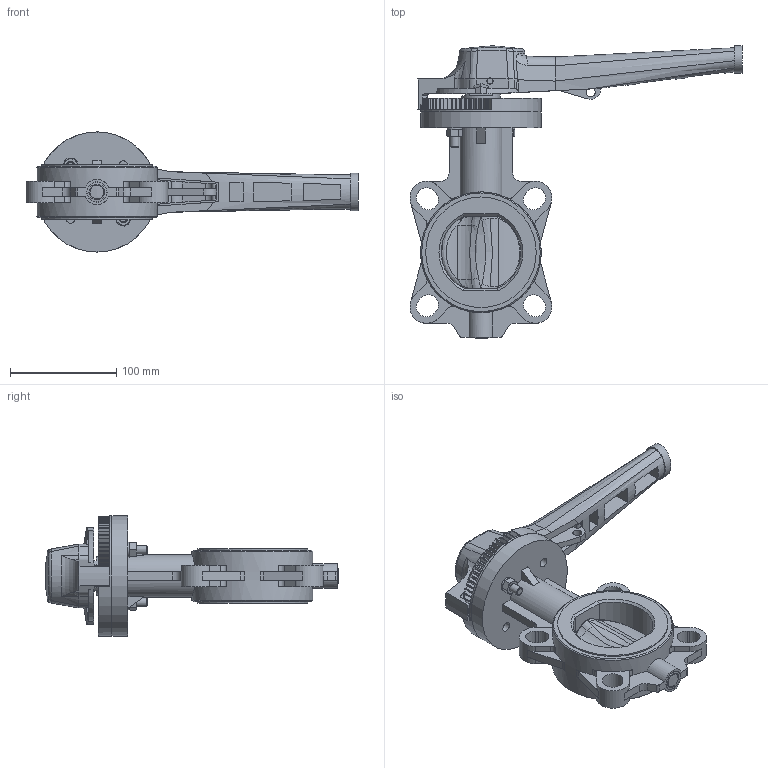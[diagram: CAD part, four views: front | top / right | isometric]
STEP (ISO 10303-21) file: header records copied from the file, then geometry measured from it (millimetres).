
FILE_DESCRIPTION(/* description */ ('','CAx-IF Rec.Pracs.---Representation and Presentation of Product Manufacturing Information (PMI)---3.8---2014-02-18'),/* implementation_level */ '2;1');
FILE_NAME(/* name */ 'C:\Users\POLYPIPE\Desktop\DATASET INVENTOR\LIBRERIA EFFAST\3D_VALVOLE\3D_VALVOLE A FARFALLA PRO FLOW\FDRPFH\3D_FDRPFH0750.stp',/* time_stamp */ '2018-04-20T15:48:47+02:00',/* author */ ('POLYPIPE'),/* organization */ ('Polypipe Italia s.r.l.'),/* preprocessor_version */ 'ST-DEVELOPER v16.1',/* originating_system */ 'Autodesk Inventor 2016',/* authorisation */ '');
FILE_SCHEMA (('AP242_MANAGED_MODEL_BASED_3D_ENGINEERING_MIM_LF { 1 0 10303 442 1 1 4 }'));
Length unit declared in the file: millimetre
Products named in the file (13): 3D_FxxFCO0750 (5_0); 3D_FDRGCO075x; 3D_FDRDHF0750 (3_0); 3D_FDRFRP0750 (4_0); 3D_FDRFSH0750 (6_0); 3D_FDRFHx0750 (5_0); ISO 4014 - M8 x 40 - ISO; UNI 6592 - 8,4 x 14; UNI 5588 - M8 - 1,25; ISO 8734 - 6 x 60 - AISO (2); FDRCAP0750 - 1_0; 3D_FDRAST075x (3_3); 3D_Pro Flow 75
Assembly tree (15 placements, depth 2):
  3D_Pro Flow 75
    3D_FxxFCO0750 (5_0)
    3D_FDRGCO075x
    3D_FDRDHF0750 (3_0)
    3D_FDRFRP0750 (4_0)
    3D_FDRFSH0750 (6_0)
    3D_FDRFHx0750 (5_0)
    ISO 4014 - M8 x 40 - ISO  x2
    UNI 6592 - 8,4 x 14  x2
    UNI 5588 - M8 - 1,25  x2
    ISO 8734 - 6 x 60 - AISO (2)
    FDRCAP0750 - 1_0
    3D_FDRAST075x (3_3)
Bounding box: 312.21 x 275.21 x 113 mm (x, y, z)
Volume: 1087714.6 mm3; surface area: 275506.2 mm2
Topology: 15 solids, 15 shells, 770 faces, 1980 edges, 1252 vertices
Faces by surface type: plane 354, cylinder 229, bspline 109, cone 60, torus 15, sphere 3
Full cylindrical faces by diameter (mm): 6 x4, 6.647 x2, 8 x2, 8.4 x2, 8.5 x1, 9 x6, 10 x1, 10.5 x1, 11.63 x2, 12 x1, 12.6 x1, 14 x2, 15 x1, 18 x2, 19 x2, 20.5 x1, 21.5 x2, 27.6 x1, 29 x2, 29.2 x1, 36 x1, 85 x2, 95.5 x2, 103.5 x2, 104 x2, 113 x2, 113.5 x1
Entity records: 26686 total; most frequent: CARTESIAN_POINT 9407, ORIENTED_EDGE 3592, DIRECTION 3364, EDGE_CURVE 1796, AXIS2_PLACEMENT_3D 1249, VERTEX_POINT 1178, LINE 866, VECTOR 866
